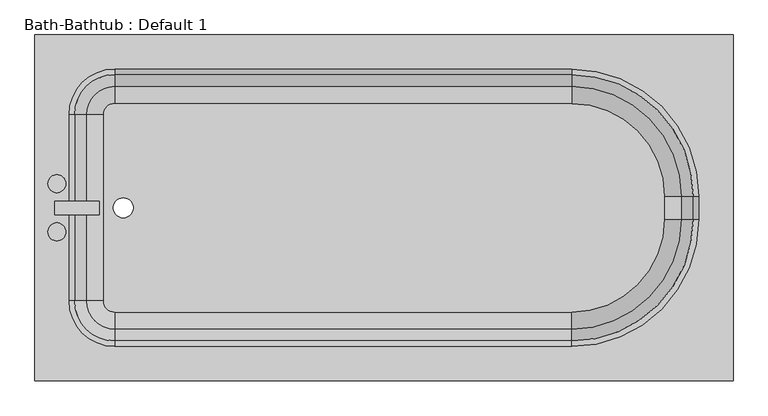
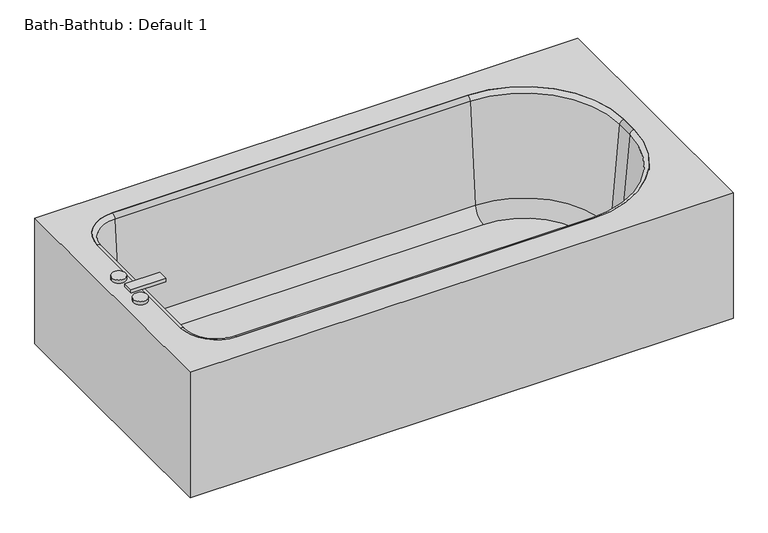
"""IFC4 building model written with IfcOpenShell, lengths in millimetres: flow terminal geometry, Bath-Bathtub : Default 1."""

from ifc_helpers import new_model, si_unit, point, frame, frame_2d, origin, place, context, project, spatial, polyline, circle_curve, ellipse_curve, trimmed, segment, composite_curve, outline, extrude, source, transform, mapped, element, save
from ifc_brep_helpers import plane_surface, cylinder_surface, revolved_surface, advanced_brep


def bath_bathtub_default_1_baae1865(model_context):
    return source(origin(), model_context, "Body", "SolidModel", [
        advanced_brep(
        [(444.7618255, -859.1709865, 380.0), (444.7618255, -88.9, 380.0), (-1110.6029687, -88.9, 380.0), (-1110.6029687, -859.1709865, 380.0), (-932.8029687, -782.9709865, 380.0), (-1034.4029687, -681.3709865, 380.0), (-1034.4029687, -266.7, 380.0), (-932.8029687, -165.1, 380.0), (85.0263322, -165.1, 380.0), (368.5618255, -448.6354932, 380.0), (368.5618255, -499.4354932, 380.0), (85.0263322, -782.9709865, 380.0), (425.7118255, -840.1209865, 360.95), (-1091.5529687, -840.1209865, 360.95), (-1091.5529687, -107.95, 360.95), (425.7118255, -107.95, 360.95), (-932.8029687, -782.9709865, 360.95), (85.0263322, -782.9709865, 360.95), (368.5618255, -499.4354932, 360.95), (368.5618255, -448.6354932, 360.95), (85.0263322, -165.1, 360.95), (-932.8029687, -165.1, 360.95), (-1034.4029687, -266.7, 360.95), (-1034.4029687, -681.3709865, 360.95), (-1110.6029687, -859.1709865, 0.0), (444.7618255, -859.1709865, 0.0), (-1110.6029687, -88.9, 0.0), (444.7618255, -88.9, 0.0), (425.7118255, -840.1209865, 0.0), (425.7118255, -107.95, 0.0), (-1091.5529687, -107.95, 0.0), (-1091.5529687, -840.1209865, 0.0)],
        [
            (0, 1),
            (1, 2),
            (2, 3),
            (3, 0),
            (4, 5, circle_curve(frame((-932.8029687, -681.3709865, 380.0), z_axis=(0.0, 0.0, -1.0), x_axis=(0.0, -1.0, 0.0)), 101.6)),
            (5, 6),
            (6, 7, circle_curve(frame((-932.8029687, -266.7, 380.0), z_axis=(0.0, 0.0, -1.0), x_axis=(0.0, -1.0, 0.0)), 101.6)),
            (7, 8),
            (8, 9, circle_curve(frame((85.0263322, -448.6354932, 380.0), z_axis=(0.0, 0.0, -1.0), x_axis=(0.0, -1.0, 0.0)), 283.5354932)),
            (9, 10),
            (10, 11, circle_curve(frame((85.0263322, -499.4354932, 380.0), z_axis=(0.0, 0.0, -1.0), x_axis=(0.0, -1.0, 0.0)), 283.5354932)),
            (11, 4),
            (12, 13),
            (13, 14),
            (14, 15),
            (15, 12),
            (16, 17),
            (17, 18, circle_curve(frame((85.0263322, -499.4354932, 360.95), z_axis=(0.0, 0.0, 1.0), x_axis=(0.0, -1.0, 0.0)), 283.5354932)),
            (18, 19),
            (19, 20, circle_curve(frame((85.0263322, -448.6354932, 360.95), z_axis=(0.0, 0.0, 1.0), x_axis=(0.0, -1.0, 0.0)), 283.5354932)),
            (20, 21),
            (21, 22, circle_curve(frame((-932.8029687, -266.7, 360.95), z_axis=(0.0, 0.0, 1.0), x_axis=(0.0, -1.0, 0.0)), 101.6)),
            (22, 23),
            (23, 16, circle_curve(frame((-932.8029687, -681.3709865, 360.95), z_axis=(0.0, 0.0, 1.0), x_axis=(0.0, -1.0, 0.0)), 101.6)),
            (3, 24),
            (24, 25),
            (25, 0),
            (2, 26),
            (26, 24),
            (1, 27),
            (27, 26),
            (25, 27),
            (11, 17),
            (16, 4),
            (10, 18),
            (9, 19),
            (8, 20),
            (7, 21),
            (6, 22),
            (5, 23),
            (28, 29),
            (29, 30),
            (30, 31),
            (31, 28),
            (28, 12),
            (15, 29),
            (14, 30),
            (13, 31),
        ],
        [
            plane_surface(frame((-1110.6029687, -859.1709865, 380.0), z_axis=(0.0, 0.0, 1.0), x_axis=(-1.0, 0.0, 0.0))),
            plane_surface(frame((-1110.6029687, -859.1709865, 360.95), z_axis=(0.0, 0.0, -1.0), x_axis=(1.0, 0.0, 0.0))),
            plane_surface(frame((444.7618255, -859.1709865, 380.0), z_axis=(0.0, -1.0, 0.0), x_axis=(0.0, 0.0, -1.0))),
            plane_surface(frame((-1110.6029687, -859.1709865, 380.0), z_axis=(-1.0, 0.0, 0.0), x_axis=(0.0, 0.0, -1.0))),
            plane_surface(frame((-1110.6029687, -88.9, 380.0), z_axis=(0.0, 1.0, 0.0), x_axis=(0.0, 0.0, -1.0))),
            plane_surface(frame((444.7618255, -88.9, 380.0), z_axis=(1.0, 0.0, 0.0), x_axis=(0.0, 0.0, -1.0))),
            plane_surface(frame((-932.8029687, -782.9709865, 380.0), z_axis=(0.0, 1.0, 0.0), x_axis=(0.0, 0.0, -1.0))),
            revolved_surface(polyline([(85.0263322, -782.9709864, 360.95), (85.0263322, -782.9709864, 380.0)]), (85.0263322, -499.4354932, 380.0), (0.0, 0.0, -1.0)),
            plane_surface(frame((368.5618255, -499.4354932, 380.0), z_axis=(-1.0, 0.0, 0.0), x_axis=(0.0, 0.0, -1.0))),
            revolved_surface(polyline([(85.0263322, -732.1709864, 360.95), (85.0263322, -732.1709864, 380.0)]), (85.0263322, -448.6354932, 380.0), (0.0, 0.0, -1.0)),
            plane_surface(frame((85.0263322, -165.1, 380.0), z_axis=(0.0, -1.0, 0.0), x_axis=(0.0, 0.0, -1.0))),
            revolved_surface(polyline([(-932.8029687, -368.29999999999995, 360.95), (-932.8029687, -368.29999999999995, 380.0)]), (-932.8029687, -266.7, 380.0), (0.0, 0.0, -1.0)),
            plane_surface(frame((-1034.4029687, -266.7, 380.0), z_axis=(1.0, 0.0, 0.0), x_axis=(0.0, 0.0, -1.0))),
            revolved_surface(polyline([(-932.8029687, -782.9709865, 360.95), (-932.8029687, -782.9709865, 380.0)]), (-932.8029687, -681.3709865, 380.0), (0.0, 0.0, -1.0)),
            plane_surface(frame((-1110.6029687, -859.1709865, 0.0), z_axis=(0.0, 0.0, -1.0), x_axis=(1.0, 0.0, 0.0))),
            plane_surface(frame((425.7118255, -840.1209865, 360.95), z_axis=(-1.0, 0.0, 0.0), x_axis=(0.0, 0.0, -1.0))),
            plane_surface(frame((425.7118255, -107.95, 360.95), z_axis=(0.0, -1.0, 0.0), x_axis=(0.0, 0.0, -1.0))),
            plane_surface(frame((-1091.5529687, -107.95, 360.95), z_axis=(1.0, 0.0, 0.0), x_axis=(0.0, 0.0, -1.0))),
            plane_surface(frame((-1091.5529687, -840.1209865, 360.95), z_axis=(0.0, 1.0, 0.0), x_axis=(0.0, 0.0, -1.0))),
        ],
        [
            (0, [[1, 2, 3, 4], [5, 6, 7, 8, 9, 10, 11, 12]]),
            (1, [[13, 14, 15, 16], [17, 18, 19, 20, 21, 22, 23, 24]]),
            (2, [[25, 26, 27, -4]]),
            (3, [[28, 29, -25, -3]]),
            (4, [[30, 31, -28, -2]]),
            (5, [[32, -30, -1, -27]]),
            (6, [[33, -17, 34, -12]]),
            (7, [[35, -18, -33, -11]]),
            (8, [[36, -19, -35, -10]]),
            (9, [[37, -20, -36, -9]]),
            (10, [[38, -21, -37, -8]]),
            (11, [[39, -22, -38, -7]]),
            (12, [[40, -23, -39, -6]]),
            (13, [[-34, -24, -40, -5]]),
            (14, [[-26, -29, -31, -32], [41, 42, 43, 44]]),
            (15, [[45, -16, 46, -41]]),
            (16, [[-46, -15, 47, -42]]),
            (17, [[-47, -14, 48, -43]]),
            (18, [[-48, -13, -45, -44]]),
        ],
    ),
        extrude(outline(composite_curve([segment(polyline([(85.0263322, -706.3674606), (-932.8029687, -706.3674606)]), True, "CONTINUOUS"), segment(trimmed(circle_curve(frame_2d((-932.8029687, -681.3709865)), 24.9964741), [point((-932.8029687, -706.3674606))], [point((-957.7994428, -681.3709865))], False, "CARTESIAN"), True, "CONTINUOUS"), segment(polyline([(-957.7994428, -681.3709865), (-957.7994428, -266.7)]), True, "CONTINUOUS"), segment(trimmed(circle_curve(frame_2d((-932.8029687, -266.7)), 24.9964741), [point((-957.7994428, -266.7))], [point((-932.8029687, -241.7035259))], False, "CARTESIAN"), True, "CONTINUOUS"), segment(polyline([(-932.8029687, -241.7035259), (85.0263322, -241.7035259)]), True, "CONTINUOUS"), segment(trimmed(circle_curve(frame_2d((85.0263322, -448.6354932)), 206.9319674), [point((85.0263322, -241.7035259))], [point((291.9582996, -448.6354932))], False, "CARTESIAN"), True, "CONTINUOUS"), segment(polyline([(291.9582996, -448.6354932), (291.9582996, -499.4354932)]), True, "CONTINUOUS"), segment(trimmed(circle_curve(frame_2d((85.0263322, -499.4354932)), 206.9319674), [point((291.9582996, -499.4354932))], [point((85.0263322, -706.3674606))], False, "CARTESIAN"), True, "CONTINUOUS")], self_intersect=False), holes=[composite_curve([segment(trimmed(circle_curve(frame_2d((-913.5971625, -474.0354932)), 22.225), [point((-913.5971625, -496.2604932))], [point((-913.5971625, -451.8104932))], True, "CARTESIAN"), True, "CONTINUOUS"), segment(trimmed(circle_curve(frame_2d((-913.5971625, -474.0354932)), 22.225), [point((-913.5971625, -451.8104932))], [point((-913.5971625, -496.2604932))], True, "CARTESIAN"), True, "CONTINUOUS")], self_intersect=False)]), frame((0.0, 0.0, 15.863573), z_axis=(0.0, 0.0, 1.0), x_axis=(1.0, 0.0, 0.0)), (0.0, 0.0, 1.0), 19.05),
        advanced_brep(
        [(-995.7544608, -681.3709865, 69.6929392), (-1021.9249722, -681.3709865, 368.8232535), (-932.8029687, -770.49299, 368.8232535), (-932.8029687, -744.3224786, 69.6929392), (-957.7994428, -681.3709865, 34.913573), (-932.8029687, -706.3674606, 34.913573), (-957.7994428, -681.3709865, 15.863573), (-932.8029687, -706.3674606, 15.863573), (-1034.4029687, -681.3709865, 15.863573), (-932.8029687, -782.9709865, 15.863573), (-1034.4029687, -681.3709865, 380.0), (-932.8029687, -782.9709865, 380.0), (-995.7544608, -266.7, 69.6929392), (-1021.9249722, -266.7, 368.8232535), (-957.7994428, -266.7, 34.913573), (-957.7994428, -266.7, 15.863573), (-1034.4029687, -266.7, 15.863573), (-1034.4029687, -266.7, 380.0), (-932.8029687, -203.7485079, 69.6929392), (-932.8029687, -177.5779965, 368.8232535), (-932.8029687, -241.7035259, 34.913573), (-932.8029687, -241.7035259, 15.863573), (-932.8029687, -165.1, 15.863573), (-932.8029687, -165.1, 380.0), (85.0263322, -203.7485079, 69.6929392), (85.0263322, -177.5779965, 368.8232535), (85.0263322, -241.7035259, 34.913573), (85.0263322, -241.7035259, 15.863573), (85.0263322, -165.1, 15.863573), (85.0263322, -165.1, 380.0), (329.9133176, -448.6354932, 69.6929392), (356.083829, -448.6354932, 368.8232535), (291.9582996, -448.6354932, 34.913573), (291.9582996, -448.6354932, 15.863573), (368.5618255, -448.6354932, 15.863573), (368.5618255, -448.6354932, 380.0), (329.9133176, -499.4354932, 69.6929392), (356.083829, -499.4354932, 368.8232535), (291.9582996, -499.4354932, 34.913573), (291.9582996, -499.4354932, 15.863573), (368.5618255, -499.4354932, 15.863573), (368.5618255, -499.4354932, 380.0), (85.0263322, -744.3224786, 69.6929392), (85.0263322, -770.49299, 368.8232535), (85.0263322, -706.3674606, 34.913573), (85.0263322, -706.3674606, 15.863573), (85.0263322, -782.9709865, 15.863573), (85.0263322, -782.9709865, 380.0)],
        [
            (0, 1),
            (1, 2, circle_curve(frame((-932.8029687, -681.3709865, 368.8232535), z_axis=(0.0, 0.0, 1.0), x_axis=(0.0, -1.0, 0.0)), 89.1220035)),
            (2, 3),
            (3, 0, circle_curve(frame((-932.8029687, -681.3709865, 69.6929392), z_axis=(0.0, 0.0, -1.0), x_axis=(0.0, -1.0, 0.0)), 62.9514921)),
            (4, 0, circle_curve(frame((-957.7994428, -681.3709865, 73.013573), z_axis=(0.0, 1.0, 0.0), x_axis=(1.0, 0.0, 0.0)), 38.1)),
            (3, 5, circle_curve(frame((-932.8029687, -706.3674606, 73.013573), z_axis=(1.0, 0.0, 0.0), x_axis=(0.0, 1.0, 0.0)), 38.1)),
            (5, 4, circle_curve(frame((-932.8029687, -681.3709865, 34.913573), z_axis=(0.0, 0.0, -1.0), x_axis=(0.0, -1.0, 0.0)), 24.9964741)),
            (6, 4),
            (5, 7),
            (7, 6, circle_curve(frame((-932.8029687, -681.3709865, 15.863573), z_axis=(0.0, 0.0, -1.0), x_axis=(0.0, -1.0, 0.0)), 24.9964741)),
            (8, 6),
            (7, 9),
            (9, 8, circle_curve(frame((-932.8029687, -681.3709865, 15.863573), z_axis=(0.0, 0.0, -1.0), x_axis=(0.0, -1.0, 0.0)), 101.6)),
            (10, 8),
            (9, 11),
            (11, 10, circle_curve(frame((-932.8029687, -681.3709865, 380.0), z_axis=(0.0, 0.0, -1.0), x_axis=(0.0, -1.0, 0.0)), 101.6)),
            (1, 10, circle_curve(frame((-1034.4029687, -681.3709865, 367.4462547), z_axis=(0.0, -1.0, 0.0), x_axis=(1.0, 0.0, 0.0)), 12.5537453)),
            (11, 2, circle_curve(frame((-932.8029687, -782.9709865, 367.4462547), z_axis=(-1.0, 0.0, 0.0), x_axis=(0.0, 1.0, 0.0)), 12.5537453)),
            (0, 12),
            (12, 13),
            (13, 1),
            (4, 14),
            (14, 12, circle_curve(frame((-957.7994428, -266.7, 73.013573), z_axis=(0.0, 1.0, 0.0), x_axis=(1.0, 0.0, 0.0)), 38.1)),
            (6, 15),
            (15, 14),
            (8, 16),
            (16, 15),
            (10, 17),
            (17, 16),
            (13, 17, circle_curve(frame((-1034.4029687, -266.7, 367.4462547), z_axis=(0.0, -1.0, 0.0), x_axis=(1.0, 0.0, 0.0)), 12.5537453)),
            (18, 19),
            (19, 13, circle_curve(frame((-932.8029687, -266.7, 368.8232535), z_axis=(0.0, 0.0, 1.0), x_axis=(-1.0, 0.0, 0.0)), 89.1220035)),
            (12, 18, circle_curve(frame((-932.8029687, -266.7, 69.6929392), z_axis=(0.0, 0.0, -1.0), x_axis=(-1.0, 0.0, 0.0)), 62.9514921)),
            (20, 18, circle_curve(frame((-932.8029687, -241.7035259, 73.013573), z_axis=(1.0, 0.0, 0.0), x_axis=(0.0, -1.0, 0.0)), 38.1)),
            (14, 20, circle_curve(frame((-932.8029687, -266.7, 34.913573), z_axis=(0.0, 0.0, -1.0), x_axis=(-1.0, 0.0, 0.0)), 24.9964741)),
            (21, 20),
            (15, 21, circle_curve(frame((-932.8029687, -266.7, 15.863573), z_axis=(0.0, 0.0, -1.0), x_axis=(-1.0, 0.0, 0.0)), 24.9964741)),
            (22, 21),
            (16, 22, circle_curve(frame((-932.8029687, -266.7, 15.863573), z_axis=(0.0, 0.0, -1.0), x_axis=(-1.0, 0.0, 0.0)), 101.6)),
            (23, 22),
            (17, 23, circle_curve(frame((-932.8029687, -266.7, 380.0), z_axis=(0.0, 0.0, -1.0), x_axis=(-1.0, 0.0, 0.0)), 101.6)),
            (19, 23, circle_curve(frame((-932.8029687, -165.1, 367.4462547), z_axis=(-1.0, 0.0, 0.0), x_axis=(0.0, -1.0, 0.0)), 12.5537453)),
            (18, 24),
            (24, 25),
            (25, 19),
            (20, 26),
            (26, 24, circle_curve(frame((85.0263322, -241.7035259, 73.013573), z_axis=(1.0, 0.0, 0.0), x_axis=(0.0, -1.0, 0.0)), 38.1)),
            (21, 27),
            (27, 26),
            (22, 28),
            (28, 27),
            (23, 29),
            (29, 28),
            (25, 29, circle_curve(frame((85.0263322, -165.1, 367.4462547), z_axis=(-1.0, 0.0, 0.0), x_axis=(0.0, -1.0, 0.0)), 12.5537453)),
            (30, 31),
            (31, 25, circle_curve(frame((85.0263322, -448.6354932, 368.8232535), z_axis=(0.0, 0.0, 1.0), x_axis=(0.0, 1.0, 0.0)), 271.0574968)),
            (24, 30, circle_curve(frame((85.0263322, -448.6354932, 69.6929392), z_axis=(0.0, 0.0, -1.0), x_axis=(0.0, 1.0, 0.0)), 244.8869854)),
            (32, 30, circle_curve(frame((291.9582996, -448.6354932, 73.013573), z_axis=(0.0, -1.0, 0.0), x_axis=(-1.0, 0.0, 0.0)), 38.1)),
            (26, 32, circle_curve(frame((85.0263322, -448.6354932, 34.913573), z_axis=(0.0, 0.0, -1.0), x_axis=(0.0, 1.0, 0.0)), 206.9319674)),
            (33, 32),
            (27, 33, circle_curve(frame((85.0263322, -448.6354932, 15.863573), z_axis=(0.0, 0.0, -1.0), x_axis=(0.0, 1.0, 0.0)), 206.9319674)),
            (34, 33),
            (28, 34, circle_curve(frame((85.0263322, -448.6354932, 15.863573), z_axis=(0.0, 0.0, -1.0), x_axis=(0.0, 1.0, 0.0)), 283.5354932)),
            (35, 34),
            (29, 35, circle_curve(frame((85.0263322, -448.6354932, 380.0), z_axis=(0.0, 0.0, -1.0), x_axis=(0.0, 1.0, 0.0)), 283.5354932)),
            (31, 35, circle_curve(frame((368.5618255, -448.6354932, 367.4462547), z_axis=(0.0, 1.0, 0.0), x_axis=(-1.0, 0.0, 0.0)), 12.5537453)),
            (30, 36),
            (36, 37),
            (37, 31),
            (32, 38),
            (38, 36, circle_curve(frame((291.9582996, -499.4354932, 73.013573), z_axis=(0.0, -1.0, 0.0), x_axis=(-1.0, 0.0, 0.0)), 38.1)),
            (33, 39),
            (39, 38),
            (34, 40),
            (40, 39),
            (35, 41),
            (41, 40),
            (37, 41, circle_curve(frame((368.5618255, -499.4354932, 367.4462547), z_axis=(0.0, 1.0, 0.0), x_axis=(-1.0, 0.0, 0.0)), 12.5537453)),
            (42, 43),
            (43, 37, circle_curve(frame((85.0263322, -499.4354932, 368.8232535), z_axis=(0.0, 0.0, 1.0), x_axis=(1.0, 0.0, 0.0)), 271.0574968)),
            (36, 42, circle_curve(frame((85.0263322, -499.4354932, 69.6929392), z_axis=(0.0, 0.0, -1.0), x_axis=(1.0, 0.0, 0.0)), 244.8869854)),
            (44, 42, circle_curve(frame((85.0263322, -706.3674606, 73.013573), z_axis=(-1.0, 0.0, 0.0), x_axis=(0.0, 1.0, 0.0)), 38.1)),
            (38, 44, circle_curve(frame((85.0263322, -499.4354932, 34.913573), z_axis=(0.0, 0.0, -1.0), x_axis=(1.0, 0.0, 0.0)), 206.9319674)),
            (45, 44),
            (39, 45, circle_curve(frame((85.0263322, -499.4354932, 15.863573), z_axis=(0.0, 0.0, -1.0), x_axis=(1.0, 0.0, 0.0)), 206.9319674)),
            (46, 45),
            (40, 46, circle_curve(frame((85.0263322, -499.4354932, 15.863573), z_axis=(0.0, 0.0, -1.0), x_axis=(1.0, 0.0, 0.0)), 283.5354932)),
            (47, 46),
            (41, 47, circle_curve(frame((85.0263322, -499.4354932, 380.0), z_axis=(0.0, 0.0, -1.0), x_axis=(1.0, 0.0, 0.0)), 283.5354932)),
            (43, 47, circle_curve(frame((85.0263322, -782.9709865, 367.4462547), z_axis=(1.0, 0.0, 0.0), x_axis=(0.0, 1.0, 0.0)), 12.5537453)),
            (42, 3),
            (2, 43),
            (44, 5),
            (45, 7),
            (46, 9),
            (47, 11),
        ],
        [
            revolved_surface(polyline([(-932.8029687, -770.49299, 368.8232535), (-932.8029687, -744.3224786, 69.6929392)]), (-932.8029687, -681.3709865, 380.0), (0.0, 0.0, 1.0)),
            revolved_surface(trimmed(ellipse_curve(frame((-932.8029687, -706.3674606, 73.013573), z_axis=(1.0, 0.0, 0.0), x_axis=(0.0, 1.0, 0.0)), 38.1, 38.1), [point((-932.8029687, -744.3224786, 69.6929392))], [point((-932.8029687, -706.3674606, 34.913573))], True, "CARTESIAN"), (-932.8029687, -681.3709865, 380.0), (0.0, 0.0, 1.0)),
            revolved_surface(polyline([(-932.8029687, -706.3674606, 34.913572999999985), (-932.8029687, -706.3674606, 15.863572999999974)]), (-932.8029687, -681.3709865, 380.0), (0.0, 0.0, 1.0)),
            plane_surface(frame((-932.8029687, -681.3709865, 15.863573), z_axis=(0.0, 0.0, -1.0), x_axis=(0.0, -1.0, 0.0))),
            cylinder_surface(frame((-932.8029687, -681.3709865, 380.0), z_axis=(0.0, 0.0, 1.0), x_axis=(0.0, -1.0, 0.0)), 101.6),
            revolved_surface(trimmed(ellipse_curve(frame((-932.8029687, -782.9709865, 367.4462547), z_axis=(-1.0, 0.0, 0.0), x_axis=(0.0, 1.0, 0.0)), 12.5537453, 12.5537453), [point((-932.8029687, -782.9709865, 380.0))], [point((-932.8029687, -770.49299, 368.8232535))], True, "CARTESIAN"), (-932.8029687, -681.3709865, 380.0), (0.0, 0.0, 1.0)),
            plane_surface(frame((-1021.9249722, -681.3709865, 368.8232535), z_axis=(0.9961946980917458, 0.0, 0.08715574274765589), x_axis=(0.0, 1.0, 0.0))),
            revolved_surface(polyline([(-919.6994427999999, -266.7, 73.013573), (-919.6994427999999, -681.3709865, 73.013573)]), (-957.7994428, -681.3709865, 73.013573), (0.0, 1.0, 0.0)),
            plane_surface(frame((-957.7994428, -681.3709865, 34.913573), z_axis=(1.0, 0.0, 0.0), x_axis=(0.0, 1.0, 0.0))),
            plane_surface(frame((-957.7994428, -681.3709865, 15.863573), z_axis=(0.0, 0.0, -1.0), x_axis=(0.0, 1.0, 0.0))),
            plane_surface(frame((-1034.4029687, -681.3709865, 15.863573), z_axis=(-1.0, 0.0, 0.0), x_axis=(0.0, 1.0, 0.0))),
            cylinder_surface(frame((-1034.4029687, -681.3709865, 367.4462547), z_axis=(0.0, -1.0, 0.0), x_axis=(1.0, 0.0, 0.0)), 12.5537453),
            revolved_surface(polyline([(-1021.9249722, -266.7, 368.8232535), (-995.7544608, -266.7, 69.6929392)]), (-932.8029687, -266.7, 380.0), (0.0, 0.0, 1.0)),
            revolved_surface(trimmed(ellipse_curve(frame((-957.7994428, -266.7, 73.013573), z_axis=(0.0, -1.0, 0.0), x_axis=(1.0, 0.0, 0.0)), 38.1, 38.1), [point((-995.7544608, -266.7, 69.6929392))], [point((-957.7994428, -266.7, 34.913573))], True, "CARTESIAN"), (-932.8029687, -266.7, 380.0), (0.0, 0.0, 1.0)),
            revolved_surface(polyline([(-957.7994428, -266.7, 34.913572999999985), (-957.7994428, -266.7, 15.863572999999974)]), (-932.8029687, -266.7, 380.0), (0.0, 0.0, 1.0)),
            plane_surface(frame((-932.8029687, -266.7, 15.863573), z_axis=(0.0, 0.0, -1.0), x_axis=(-1.0, 0.0, 0.0))),
            cylinder_surface(frame((-932.8029687, -266.7, 380.0), z_axis=(0.0, 0.0, 1.0), x_axis=(-1.0, 0.0, 0.0)), 101.6),
            revolved_surface(trimmed(ellipse_curve(frame((-1034.4029687, -266.7, 367.4462547), z_axis=(0.0, 1.0, 0.0), x_axis=(1.0, 0.0, 0.0)), 12.5537453, 12.5537453), [point((-1034.4029687, -266.7, 380.0))], [point((-1021.9249722, -266.7, 368.8232535))], True, "CARTESIAN"), (-932.8029687, -266.7, 380.0), (0.0, 0.0, 1.0)),
            plane_surface(frame((-932.8029687, -177.5779965, 368.8232535), z_axis=(0.0, -0.9961946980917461, 0.08715574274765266), x_axis=(1.0, 0.0, 0.0))),
            revolved_surface(polyline([(85.02633219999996, -279.8035259, 73.013573), (-932.8029687, -279.8035259, 73.013573)]), (-932.8029687, -241.7035259, 73.013573), (1.0, 0.0, 0.0)),
            plane_surface(frame((-932.8029687, -241.7035259, 34.913573), z_axis=(0.0, -1.0, 0.0), x_axis=(1.0, 0.0, 0.0))),
            plane_surface(frame((-932.8029687, -241.7035259, 15.863573), z_axis=(0.0, 0.0, -1.0), x_axis=(1.0, 0.0, 0.0))),
            plane_surface(frame((-932.8029687, -165.1, 15.863573), z_axis=(0.0, 1.0, 0.0), x_axis=(1.0, 0.0, 0.0))),
            cylinder_surface(frame((-932.8029687, -165.1, 367.4462547), z_axis=(-1.0, 0.0, 0.0), x_axis=(0.0, -1.0, 0.0)), 12.5537453),
            revolved_surface(polyline([(85.0263322, -177.5779965, 368.8232535), (85.0263322, -203.7485079, 69.6929392)]), (85.0263322, -448.6354932, 380.0), (0.0, 0.0, 1.0)),
            revolved_surface(trimmed(ellipse_curve(frame((85.0263322, -241.7035259, 73.013573), z_axis=(-1.0, 0.0, 0.0), x_axis=(0.0, -1.0, 0.0)), 38.1, 38.1), [point((85.0263322, -203.7485079, 69.6929392))], [point((85.0263322, -241.7035259, 34.913573))], True, "CARTESIAN"), (85.0263322, -448.6354932, 380.0), (0.0, 0.0, 1.0)),
            revolved_surface(polyline([(85.0263322, -241.7035258, 34.913572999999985), (85.0263322, -241.7035258, 15.863572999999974)]), (85.0263322, -448.6354932, 380.0), (0.0, 0.0, 1.0)),
            plane_surface(frame((85.0263322, -448.6354932, 15.863573), z_axis=(0.0, 0.0, -1.0), x_axis=(0.0, 1.0, 0.0))),
            cylinder_surface(frame((85.0263322, -448.6354932, 380.0), z_axis=(0.0, 0.0, 1.0), x_axis=(0.0, 1.0, 0.0)), 283.5354932),
            revolved_surface(trimmed(ellipse_curve(frame((85.0263322, -165.1, 367.4462547), z_axis=(1.0, 0.0, 0.0), x_axis=(0.0, -1.0, 0.0)), 12.5537453, 12.5537453), [point((85.0263322, -165.1, 380.0))], [point((85.0263322, -177.5779965, 368.8232535))], True, "CARTESIAN"), (85.0263322, -448.6354932, 380.0), (0.0, 0.0, 1.0)),
            plane_surface(frame((356.083829, -448.6354932, 368.8232535), z_axis=(-0.9961946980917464, 0.0, 0.08715574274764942), x_axis=(0.0, -1.0, 0.0))),
            revolved_surface(polyline([(253.85829959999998, -499.4354932, 73.013573), (253.85829959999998, -448.6354932, 73.013573)]), (291.9582996, -448.6354932, 73.013573), (0.0, -1.0, 0.0)),
            plane_surface(frame((291.9582996, -448.6354932, 34.913573), z_axis=(-1.0, 0.0, 0.0), x_axis=(0.0, -1.0, 0.0))),
            plane_surface(frame((291.9582996, -448.6354932, 15.863573), z_axis=(0.0, 0.0, -1.0), x_axis=(0.0, -1.0, 0.0))),
            plane_surface(frame((368.5618255, -448.6354932, 15.863573), z_axis=(1.0, 0.0, 0.0), x_axis=(0.0, -1.0, 0.0))),
            cylinder_surface(frame((368.5618255, -448.6354932, 367.4462547), z_axis=(0.0, 1.0, 0.0), x_axis=(-1.0, 0.0, 0.0)), 12.5537453),
            revolved_surface(polyline([(356.083829, -499.4354932, 368.8232535), (329.9133176, -499.4354932, 69.6929392)]), (85.0263322, -499.4354932, 380.0), (0.0, 0.0, 1.0)),
            revolved_surface(trimmed(ellipse_curve(frame((291.9582996, -499.4354932, 73.013573), z_axis=(0.0, 1.0, 0.0), x_axis=(-1.0, 0.0, 0.0)), 38.1, 38.1), [point((329.9133176, -499.4354932, 69.6929392))], [point((291.9582996, -499.4354932, 34.913573))], True, "CARTESIAN"), (85.0263322, -499.4354932, 380.0), (0.0, 0.0, 1.0)),
            revolved_surface(polyline([(291.9582996, -499.4354932, 34.913572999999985), (291.9582996, -499.4354932, 15.863572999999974)]), (85.0263322, -499.4354932, 380.0), (0.0, 0.0, 1.0)),
            plane_surface(frame((85.0263322, -499.4354932, 15.863573), z_axis=(0.0, 0.0, -1.0), x_axis=(1.0, 0.0, 0.0))),
            cylinder_surface(frame((85.0263322, -499.4354932, 380.0), z_axis=(0.0, 0.0, 1.0), x_axis=(1.0, 0.0, 0.0)), 283.5354932),
            revolved_surface(trimmed(ellipse_curve(frame((368.5618255, -499.4354932, 367.4462547), z_axis=(0.0, -1.0, 0.0), x_axis=(-1.0, 0.0, 0.0)), 12.5537453, 12.5537453), [point((368.5618255, -499.4354932, 380.0))], [point((356.083829, -499.4354932, 368.8232535))], True, "CARTESIAN"), (85.0263322, -499.4354932, 380.0), (0.0, 0.0, 1.0)),
            plane_surface(frame((85.0263322, -770.49299, 368.8232535), z_axis=(0.0, 0.9961946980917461, 0.08715574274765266), x_axis=(-1.0, 0.0, 0.0))),
            revolved_surface(polyline([(-932.8029687, -668.2674605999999, 73.013573), (85.0263322, -668.2674605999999, 73.013573)]), (85.0263322, -706.3674606, 73.013573), (-1.0, 0.0, 0.0)),
            plane_surface(frame((85.0263322, -706.3674606, 34.913573), z_axis=(0.0, 1.0, 0.0), x_axis=(-1.0, 0.0, 0.0))),
            plane_surface(frame((85.0263322, -706.3674606, 15.863573), z_axis=(0.0, 0.0, -1.0), x_axis=(-1.0, 0.0, 0.0))),
            plane_surface(frame((85.0263322, -782.9709865, 15.863573), z_axis=(0.0, -1.0, 0.0), x_axis=(-1.0, 0.0, 0.0))),
            cylinder_surface(frame((85.0263322, -782.9709865, 367.4462547), z_axis=(1.0, 0.0, 0.0), x_axis=(0.0, 1.0, 0.0)), 12.5537453),
        ],
        [
            (0, [[1, 2, 3, 4]]),
            (1, [[5, -4, 6, 7]]),
            (2, [[8, -7, 9, 10]]),
            (3, [[11, -10, 12, 13]]),
            (4, [[14, -13, 15, 16]]),
            (5, [[17, -16, 18, -2]]),
            (6, [[19, 20, 21, -1]]),
            (7, [[22, 23, -19, -5]]),
            (8, [[24, 25, -22, -8]]),
            (9, [[26, 27, -24, -11]]),
            (10, [[28, 29, -26, -14]]),
            (11, [[-21, 30, -28, -17]]),
            (12, [[31, 32, -20, 33]]),
            (13, [[34, -33, -23, 35]]),
            (14, [[36, -35, -25, 37]]),
            (15, [[38, -37, -27, 39]]),
            (16, [[40, -39, -29, 41]]),
            (17, [[42, -41, -30, -32]]),
            (18, [[43, 44, 45, -31]]),
            (19, [[46, 47, -43, -34]]),
            (20, [[48, 49, -46, -36]]),
            (21, [[50, 51, -48, -38]]),
            (22, [[52, 53, -50, -40]]),
            (23, [[-45, 54, -52, -42]]),
            (24, [[55, 56, -44, 57]]),
            (25, [[58, -57, -47, 59]]),
            (26, [[60, -59, -49, 61]]),
            (27, [[62, -61, -51, 63]]),
            (28, [[64, -63, -53, 65]]),
            (29, [[66, -65, -54, -56]]),
            (30, [[67, 68, 69, -55]]),
            (31, [[70, 71, -67, -58]]),
            (32, [[72, 73, -70, -60]]),
            (33, [[74, 75, -72, -62]]),
            (34, [[76, 77, -74, -64]]),
            (35, [[-69, 78, -76, -66]]),
            (36, [[79, 80, -68, 81]]),
            (37, [[82, -81, -71, 83]]),
            (38, [[84, -83, -73, 85]]),
            (39, [[86, -85, -75, 87]]),
            (40, [[88, -87, -77, 89]]),
            (41, [[90, -89, -78, -80]]),
            (42, [[91, -3, 92, -79]]),
            (43, [[93, -6, -91, -82]]),
            (44, [[94, -9, -93, -84]]),
            (45, [[95, -12, -94, -86]]),
            (46, [[96, -15, -95, -88]]),
            (47, [[-92, -18, -96, -90]]),
        ],
    ),
        extrude(outline(polyline([(-1066.8328759, -489.0354932), (-1066.8328759, -459.0354932), (-966.8328759, -459.0354932), (-966.8328759, -489.0354932), (-1066.8328759, -489.0354932)])), frame((0.0, 0.0, 380.0), z_axis=(0.0, 0.0, 1.0), x_axis=(1.0, 0.0, 0.0)), (0.0, 0.0, 1.0), 10.6738596),
        extrude(outline(composite_curve([segment(trimmed(circle_curve(frame_2d((-1061.8660369, -527.7302309)), 20.0), [point((-1041.8660369, -527.7302309))], [point((-1081.8660369, -527.7302309))], False, "CARTESIAN"), True, "CONTINUOUS"), segment(trimmed(circle_curve(frame_2d((-1061.8660369, -527.7302309)), 20.0), [point((-1081.8660369, -527.7302309))], [point((-1041.8660369, -527.7302309))], False, "CARTESIAN"), True, "CONTINUOUS")], self_intersect=False)), frame((0.0, 0.0, 380.0), z_axis=(0.0, 0.0, 1.0), x_axis=(1.0, 0.0, 0.0)), (0.0, 0.0, 1.0), 10.6738596),
        extrude(outline(composite_curve([segment(trimmed(circle_curve(frame_2d((-1061.8660369, -420.3407556)), 20.0), [point((-1041.8660369, -420.3407556))], [point((-1081.8660369, -420.3407556))], False, "CARTESIAN"), True, "CONTINUOUS"), segment(trimmed(circle_curve(frame_2d((-1061.8660369, -420.3407556)), 20.0), [point((-1081.8660369, -420.3407556))], [point((-1041.8660369, -420.3407556))], False, "CARTESIAN"), True, "CONTINUOUS")], self_intersect=False)), frame((0.0, 0.0, 380.0), z_axis=(0.0, 0.0, 1.0), x_axis=(1.0, 0.0, 0.0)), (0.0, 0.0, 1.0), 10.6738596),
    ])


if __name__ == "__main__":
    model = new_model("IFC4")
    model_context = context("Model", 3, world=origin())
    ifc_project = project(units=[si_unit("LENGTHUNIT", "METRE", prefix="MILLI")], contexts=[model_context])
    site = spatial("IfcSite", under=ifc_project)
    building = spatial("IfcBuilding", under=site)
    placement = place(None, origin())
    bath_bathtub_default_1_shape = bath_bathtub_default_1_baae1865(model_context)
    element("IfcFlowTerminal", 1, ObjectType="Bath-Bathtub : Default 1", at=placement, inside=building, context=model_context, shape_type="MappedRepresentation", body=[
        mapped(bath_bathtub_default_1_shape, transform((0.0, 0.0, 0.0), x_axis=(1.0, 0.0, 0.0), y_axis=(0.0, 1.0, 0.0), z_axis=(0.0, 0.0, 1.0))),
    ])
    save(model, "model.ifc")
